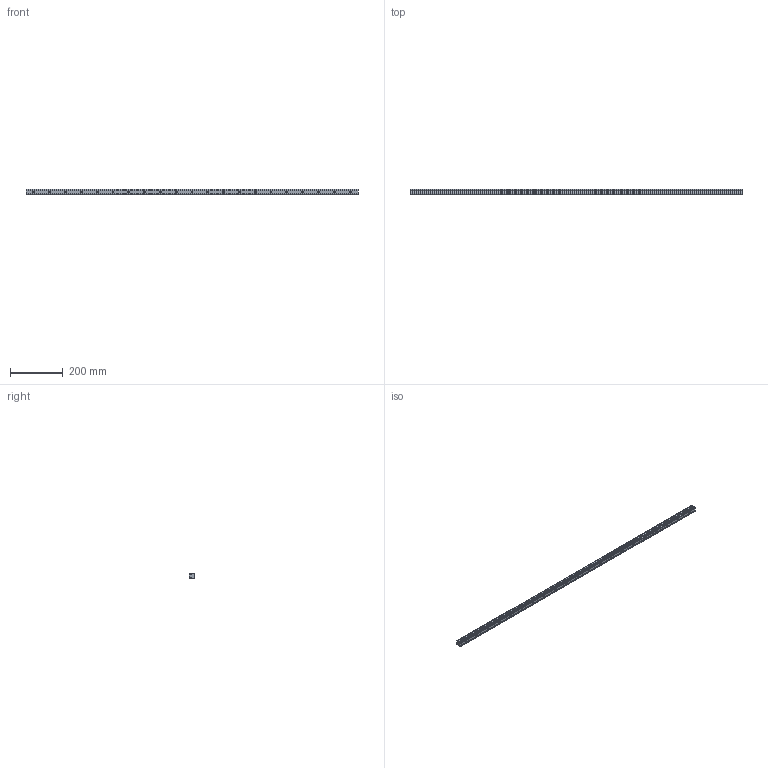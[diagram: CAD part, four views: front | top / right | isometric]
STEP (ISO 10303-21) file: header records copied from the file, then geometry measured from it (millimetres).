
FILE_DESCRIPTION (( 'STEP AP203' ), '1' );
FILE_NAME ('L1018.20R-1260.step', '2023-08-06T09:07:54', ( '' ), ( '' ), 'SwSTEP 2.0', 'SolidWorks 2019', '' );
FILE_SCHEMA (( 'CONFIG_CONTROL_DESIGN' ));
Length unit declared in the file: millimetre
Products named in the file (1): L1018.20R-1260
Bounding box: 1260 x 19.3 x 20 mm (x, y, z)
Volume: 399581.6 mm3; surface area: 106980.8 mm2
Topology: 1 solids, 1 shells, 218 faces, 501 edges, 285 vertices
Faces by surface type: cylinder 87, cone 84, plane 47
Entity records: 5912 total; most frequent: DIRECTION 1113, CARTESIAN_POINT 963, ORIENTED_EDGE 918, EDGE_CURVE 459, AXIS2_PLACEMENT_3D 435, VERTEX_POINT 285, EDGE_LOOP 260, LINE 243
